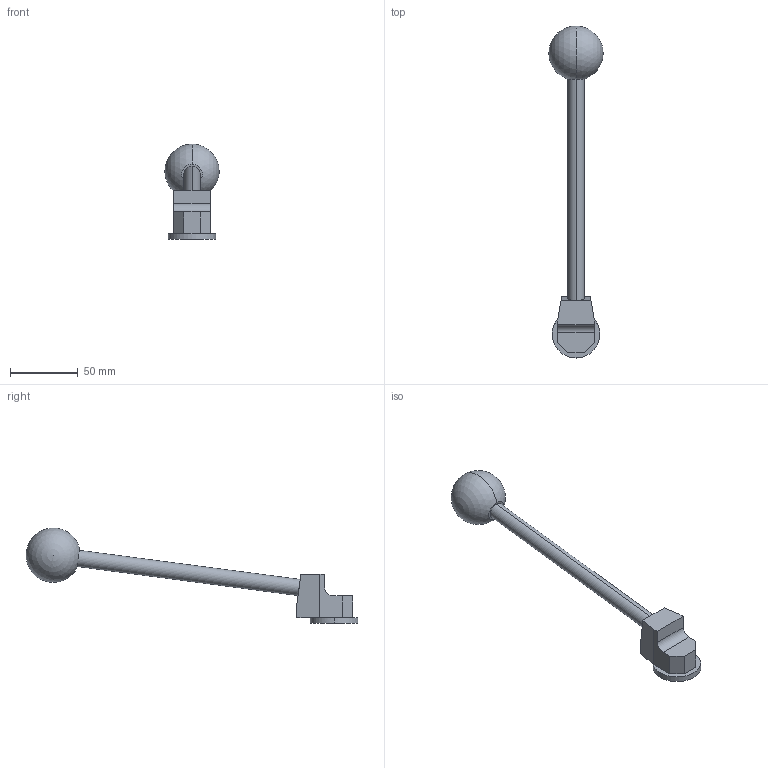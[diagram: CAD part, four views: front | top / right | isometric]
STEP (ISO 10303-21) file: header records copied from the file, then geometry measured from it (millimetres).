
FILE_DESCRIPTION (( 'STEP AP214' ), '1' );
FILE_NAME ('09107_50_C.STEP', '2020-01-23T08:09:05', ( '' ), ( '' ), 'SwSTEP 2.0', 'SolidWorks 2019', '' );
FILE_SCHEMA (( 'AUTOMOTIVE_DESIGN' ));
Length unit declared in the file: millimetre
Products named in the file (1): 09107_50_C
Bounding box: 40 x 244.47 x 70.6 mm (x, y, z)
Volume: 79559.5 mm3; surface area: 17141.4 mm2
Topology: 1 solids, 1 shells, 26 faces, 67 edges, 44 vertices
Faces by surface type: plane 17, cylinder 7, sphere 2
Entity records: 792 total; most frequent: DIRECTION 136, CARTESIAN_POINT 130, ORIENTED_EDGE 124, EDGE_CURVE 62, AXIS2_PLACEMENT_3D 47, LINE 42, VECTOR 42, VERTEX_POINT 41
